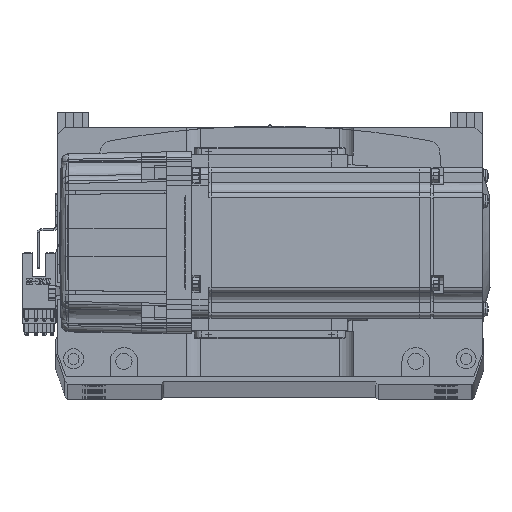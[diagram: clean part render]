
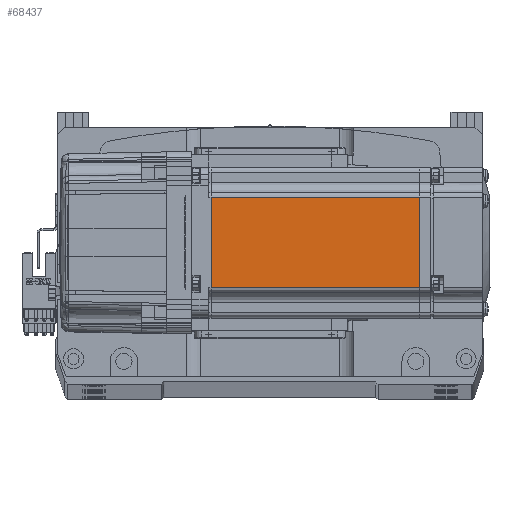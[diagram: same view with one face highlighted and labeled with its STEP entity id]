
A CAD part, top view. The second image highlights one B-rep face of the part: STEP entity #68437.
In plain terms, the highlighted planar face has unit normal (0, 0, 1) as drawn and (0, -1, 0) by its records, which use the part's own axes.
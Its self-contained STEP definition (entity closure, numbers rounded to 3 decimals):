
#4766 = FACE_OUTER_BOUND ( 'NONE', #16760, .T. ) ;
#6335 = ORIENTED_EDGE ( 'NONE', *, *, #14909, .T. ) ;
#6461 = CARTESIAN_POINT ( 'NONE',  ( -90.45, -30., -18. ) ) ;
#12110 = CARTESIAN_POINT ( 'NONE',  ( -7.75, -30., 18. ) ) ;
#13207 = ORIENTED_EDGE ( 'NONE', *, *, #54541, .T. ) ;
#14418 = VECTOR ( 'NONE', #50046, 1000. ) ;
#14909 = EDGE_CURVE ( 'NONE', #72223, #31745, #49500, .T. ) ;
#16237 = VECTOR ( 'NONE', #40288, 1000. ) ;
#16760 = EDGE_LOOP ( 'NONE', ( #13207, #60900, #6335, #64867 ) ) ;
#17712 = CARTESIAN_POINT ( 'NONE',  ( -90.45, -30., -25. ) ) ;
#18437 = DIRECTION ( 'NONE',  ( 0., 0., -1. ) ) ;
#21929 = LINE ( 'NONE', #70338, #42387 ) ;
#22262 = AXIS2_PLACEMENT_3D ( 'NONE', #47590, #59199, #24596 ) ;
#24373 = DIRECTION ( 'NONE',  ( -1., 0., 0. ) ) ;
#24596 = DIRECTION ( 'NONE',  ( 0., 0., -1. ) ) ;
#27330 = EDGE_CURVE ( 'NONE', #45672, #72223, #21929, .T. ) ;
#31745 = VERTEX_POINT ( 'NONE', #6461 ) ;
#33217 = CARTESIAN_POINT ( 'NONE',  ( -90.45, -30., 18. ) ) ;
#34584 = CARTESIAN_POINT ( 'NONE',  ( -6.5, -30., -18. ) ) ;
#36254 = VECTOR ( 'NONE', #18437, 1000. ) ;
#40288 = DIRECTION ( 'NONE',  ( 1., 0., 0. ) ) ;
#42387 = VECTOR ( 'NONE', #24373, 1000. ) ;
#44525 = LINE ( 'NONE', #72493, #14418 ) ;
#45672 = VERTEX_POINT ( 'NONE', #12110 ) ;
#46171 = EDGE_CURVE ( 'NONE', #31745, #64427, #65863, .T. ) ;
#47590 = CARTESIAN_POINT ( 'NONE',  ( -6.5, -30., -25. ) ) ;
#49500 = LINE ( 'NONE', #17712, #36254 ) ;
#50046 = DIRECTION ( 'NONE',  ( 0., 0., 1. ) ) ;
#54541 = EDGE_CURVE ( 'NONE', #64427, #45672, #44525, .T. ) ;
#59199 = DIRECTION ( 'NONE',  ( 0., -1., 0. ) ) ;
#60900 = ORIENTED_EDGE ( 'NONE', *, *, #27330, .T. ) ;
#63896 = PLANE ( 'NONE',  #22262 ) ;
#64427 = VERTEX_POINT ( 'NONE', #68893 ) ;
#64867 = ORIENTED_EDGE ( 'NONE', *, *, #46171, .T. ) ;
#65863 = LINE ( 'NONE', #34584, #16237 ) ;
#68437 = ADVANCED_FACE ( 'NONE', ( #4766 ), #63896, .T. ) ;
#68893 = CARTESIAN_POINT ( 'NONE',  ( -7.75, -30., -18. ) ) ;
#70338 = CARTESIAN_POINT ( 'NONE',  ( -6.5, -30., 18. ) ) ;
#72223 = VERTEX_POINT ( 'NONE', #33217 ) ;
#72493 = CARTESIAN_POINT ( 'NONE',  ( -7.75, -30., -25. ) ) ;
